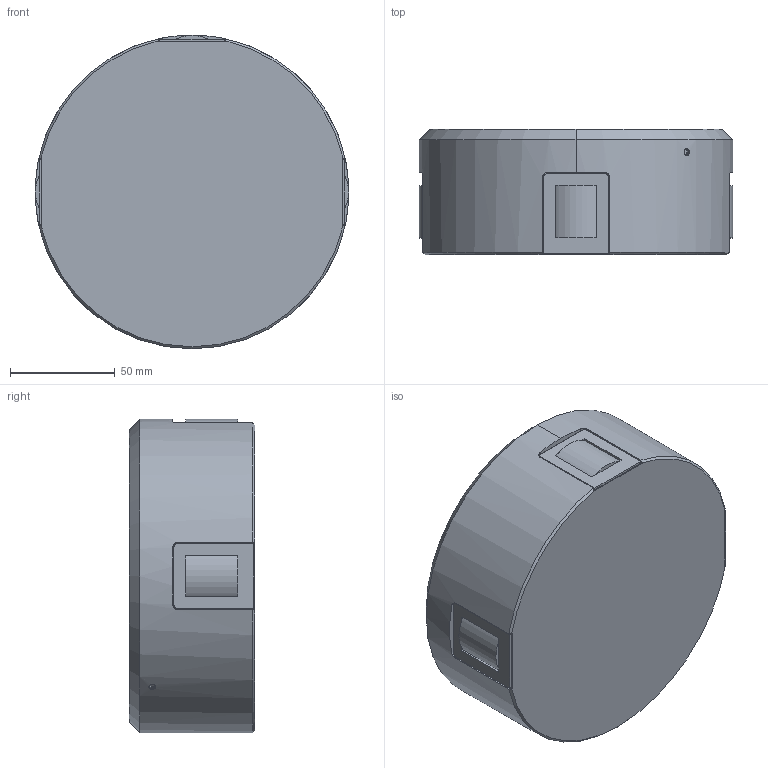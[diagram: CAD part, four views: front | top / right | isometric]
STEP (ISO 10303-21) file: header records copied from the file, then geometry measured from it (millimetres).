
FILE_DESCRIPTION (( 'STEP AP214' ), '1' );
FILE_NAME ('ﾑﾄﾑ RAD-CRUX-D-V1_LIB.STEP', '2023-02-27T19:59:26', ( '' ), ( '' ), 'SwSTEP 2.0', 'SolidWorks 2020', '' );
FILE_SCHEMA (( 'AUTOMOTIVE_DESIGN' ));
Length unit declared in the file: millimetre
Products named in the file (1): ﾑﾄﾑ RAD-CRUX-D-V1_LIB
Bounding box: 150 x 60 x 150 mm (x, y, z)
Volume: 1050194.6 mm3; surface area: 62790.7 mm2
Topology: 1 solids, 1 shells, 156 faces, 409 edges, 268 vertices
Faces by surface type: plane 102, cylinder 41, bspline 8, cone 5
Entity records: 5138 total; most frequent: CARTESIAN_POINT 1314, ORIENTED_EDGE 818, DIRECTION 734, EDGE_CURVE 409, VECTOR 278, LINE 278, VERTEX_POINT 268, AXIS2_PLACEMENT_3D 228
